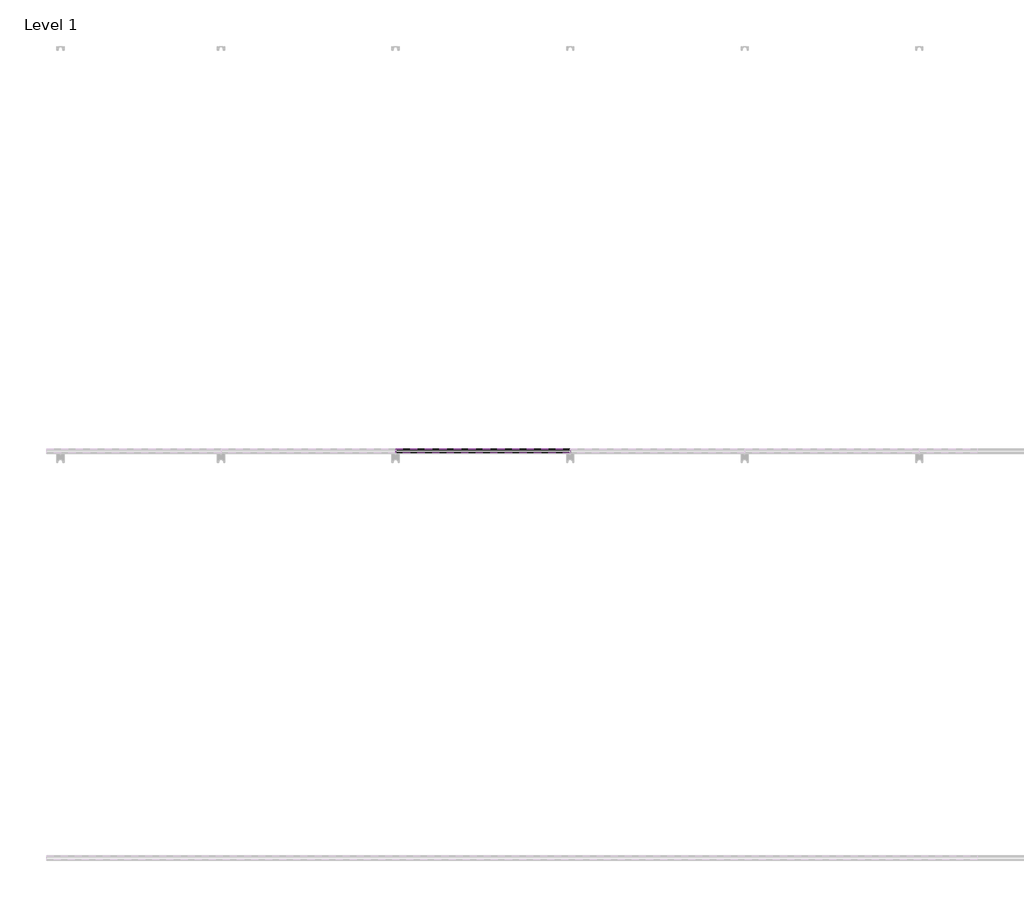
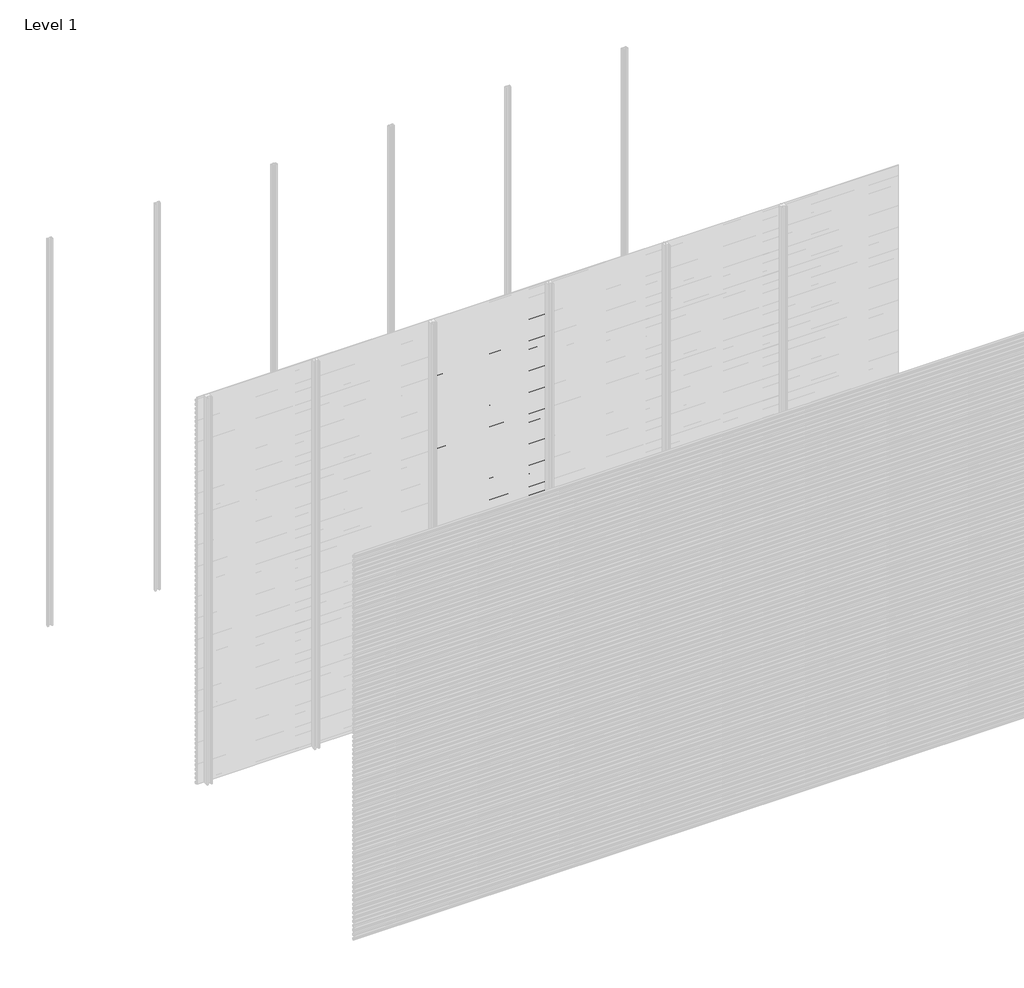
# One storey, part 73 of 96: 77 proxies.
"""IFC4 building model written with IfcOpenShell, lengths in millimetres."""

from ifc_helpers import new_model, si_unit, frame, origin, place, context, project, spatial, polyline, outline, extrude, element, save

model = new_model("IFC4")

# Units and contexts
model_context = context("Model", 3, world=origin())
ifc_project = project(units=[si_unit("LENGTHUNIT", "METRE", prefix="MILLI")], contexts=[model_context])

# Site, building, storey
site = spatial("IfcSite", under=ifc_project)
building = spatial("IfcBuilding", under=site)
storey = spatial("IfcBuildingStorey", under=building, Name="Level 1", Elevation=0.0)

# Proxies
placement = place(None, origin())
element("IfcBuildingElementProxy", 1, Name="Wall Sweeps", at=placement, inside=storey, context=model_context, shape_type="SweptSolid", body=[
    extrude(outline(polyline([(-11977.6, 2738.6655033), (-11977.6, 2724.3779188), (-11982.4114965, 2721.6), (-11982.4114965, 2722.8701706), (-11978.85, 2724.9264016), (-11978.85, 2737.9437382), (-11998.0, 2749.0000799), (-11998.0, 2763.9), (-11996.75, 2763.9), (-11996.75, 2749.7217609), (-11977.6, 2738.6655033)])), frame((1714.2857143, 0.0, 0.0), z_axis=(1.0, 0.0, 0.0), x_axis=(0.0, 1.0, 0.0)), (0.0, 0.0, 1.0), 857.1428571),
])
element("IfcBuildingElementProxy", 2, Name="Wall Sweeps", at=placement, inside=storey, context=model_context, shape_type="SweptSolid", body=[
    extrude(outline(polyline([(-11977.6, 2705.3655033), (-11977.6, 2691.0779188), (-11982.4114965, 2688.3), (-11982.4114965, 2689.5701706), (-11978.85, 2691.6264016), (-11978.85, 2704.6437382), (-11998.0, 2715.7000799), (-11998.0, 2730.6), (-11996.75, 2730.6), (-11996.75, 2716.4217609), (-11977.6, 2705.3655033)])), frame((1714.2857143, 0.0, 0.0), z_axis=(1.0, 0.0, 0.0), x_axis=(0.0, 1.0, 0.0)), (0.0, 0.0, 1.0), 857.1428571),
])
element("IfcBuildingElementProxy", 3, Name="Wall Sweeps", at=placement, inside=storey, context=model_context, shape_type="SweptSolid", body=[
    extrude(outline(polyline([(-11977.6, 2672.0655033), (-11977.6, 2657.7779188), (-11982.4114965, 2655.0), (-11982.4114965, 2656.2701706), (-11978.85, 2658.3264016), (-11978.85, 2671.3437382), (-11998.0, 2682.4000799), (-11998.0, 2697.3), (-11996.75, 2697.3), (-11996.75, 2683.1217609), (-11977.6, 2672.0655033)])), frame((1714.2857143, 0.0, 0.0), z_axis=(1.0, 0.0, 0.0), x_axis=(0.0, 1.0, 0.0)), (0.0, 0.0, 1.0), 857.1428571),
])
element("IfcBuildingElementProxy", 4, Name="Wall Sweeps", at=placement, inside=storey, context=model_context, shape_type="SweptSolid", body=[
    extrude(outline(polyline([(-11977.6, 2638.7655033), (-11977.6, 2624.4779188), (-11982.4114965, 2621.7), (-11982.4114965, 2622.9701706), (-11978.85, 2625.0264016), (-11978.85, 2638.0437382), (-11998.0, 2649.1000799), (-11998.0, 2664.0), (-11996.75, 2664.0), (-11996.75, 2649.8217609), (-11977.6, 2638.7655033)])), frame((1714.2857143, 0.0, 0.0), z_axis=(1.0, 0.0, 0.0), x_axis=(0.0, 1.0, 0.0)), (0.0, 0.0, 1.0), 857.1428571),
])
element("IfcBuildingElementProxy", 5, Name="Wall Sweeps", at=placement, inside=storey, context=model_context, shape_type="SweptSolid", body=[
    extrude(outline(polyline([(-11977.6, 2605.4655033), (-11977.6, 2591.1779188), (-11982.4114965, 2588.4), (-11982.4114965, 2589.6701706), (-11978.85, 2591.7264016), (-11978.85, 2604.7437382), (-11998.0, 2615.8000799), (-11998.0, 2630.7), (-11996.75, 2630.7), (-11996.75, 2616.5217609), (-11977.6, 2605.4655033)])), frame((1714.2857143, 0.0, 0.0), z_axis=(1.0, 0.0, 0.0), x_axis=(0.0, 1.0, 0.0)), (0.0, 0.0, 1.0), 857.1428571),
])
element("IfcBuildingElementProxy", 6, Name="Wall Sweeps", at=placement, inside=storey, context=model_context, shape_type="SweptSolid", body=[
    extrude(outline(polyline([(-11977.6, 2572.1655033), (-11977.6, 2557.8779188), (-11982.4114965, 2555.1), (-11982.4114965, 2556.3701706), (-11978.85, 2558.4264016), (-11978.85, 2571.4437382), (-11998.0, 2582.5000799), (-11998.0, 2597.4), (-11996.75, 2597.4), (-11996.75, 2583.2217609), (-11977.6, 2572.1655033)])), frame((1714.2857143, 0.0, 0.0), z_axis=(1.0, 0.0, 0.0), x_axis=(0.0, 1.0, 0.0)), (0.0, 0.0, 1.0), 857.1428571),
])
element("IfcBuildingElementProxy", 7, Name="Wall Sweeps", at=placement, inside=storey, context=model_context, shape_type="SweptSolid", body=[
    extrude(outline(polyline([(-11977.6, 2538.8655033), (-11977.6, 2524.5779188), (-11982.4114965, 2521.8), (-11982.4114965, 2523.0701706), (-11978.85, 2525.1264016), (-11978.85, 2538.1437382), (-11998.0, 2549.2000799), (-11998.0, 2564.1), (-11996.75, 2564.1), (-11996.75, 2549.9217609), (-11977.6, 2538.8655033)])), frame((1714.2857143, 0.0, 0.0), z_axis=(1.0, 0.0, 0.0), x_axis=(0.0, 1.0, 0.0)), (0.0, 0.0, 1.0), 857.1428571),
])
element("IfcBuildingElementProxy", 8, Name="Wall Sweeps", at=placement, inside=storey, context=model_context, shape_type="SweptSolid", body=[
    extrude(outline(polyline([(-11977.6, 2505.5655033), (-11977.6, 2491.2779188), (-11982.4114965, 2488.5), (-11982.4114965, 2489.7701706), (-11978.85, 2491.8264016), (-11978.85, 2504.8437382), (-11998.0, 2515.9000799), (-11998.0, 2530.8), (-11996.75, 2530.8), (-11996.75, 2516.6217609), (-11977.6, 2505.5655033)])), frame((1714.2857143, 0.0, 0.0), z_axis=(1.0, 0.0, 0.0), x_axis=(0.0, 1.0, 0.0)), (0.0, 0.0, 1.0), 857.1428571),
])
element("IfcBuildingElementProxy", 9, Name="Wall Sweeps", at=placement, inside=storey, context=model_context, shape_type="SweptSolid", body=[
    extrude(outline(polyline([(-11977.6, 2472.2655033), (-11977.6, 2457.9779188), (-11982.4114965, 2455.2), (-11982.4114965, 2456.4701706), (-11978.85, 2458.5264016), (-11978.85, 2471.5437382), (-11998.0, 2482.6000799), (-11998.0, 2497.5), (-11996.75, 2497.5), (-11996.75, 2483.3217609), (-11977.6, 2472.2655033)])), frame((1714.2857143, 0.0, 0.0), z_axis=(1.0, 0.0, 0.0), x_axis=(0.0, 1.0, 0.0)), (0.0, 0.0, 1.0), 857.1428571),
])
element("IfcBuildingElementProxy", 10, Name="Wall Sweeps", at=placement, inside=storey, context=model_context, shape_type="SweptSolid", body=[
    extrude(outline(polyline([(-11977.6, 2438.9655033), (-11977.6, 2424.6779188), (-11982.4114965, 2421.9), (-11982.4114965, 2423.1701706), (-11978.85, 2425.2264016), (-11978.85, 2438.2437382), (-11998.0, 2449.3000799), (-11998.0, 2464.2), (-11996.75, 2464.2), (-11996.75, 2450.0217609), (-11977.6, 2438.9655033)])), frame((1714.2857143, 0.0, 0.0), z_axis=(1.0, 0.0, 0.0), x_axis=(0.0, 1.0, 0.0)), (0.0, 0.0, 1.0), 857.1428571),
])
element("IfcBuildingElementProxy", 11, Name="Wall Sweeps", at=placement, inside=storey, context=model_context, shape_type="SweptSolid", body=[
    extrude(outline(polyline([(-11977.6, 2405.6655033), (-11977.6, 2391.3779188), (-11982.4114965, 2388.6), (-11982.4114965, 2389.8701706), (-11978.85, 2391.9264016), (-11978.85, 2404.9437382), (-11998.0, 2416.0000799), (-11998.0, 2430.9), (-11996.75, 2430.9), (-11996.75, 2416.7217609), (-11977.6, 2405.6655033)])), frame((1714.2857143, 0.0, 0.0), z_axis=(1.0, 0.0, 0.0), x_axis=(0.0, 1.0, 0.0)), (0.0, 0.0, 1.0), 857.1428571),
])
element("IfcBuildingElementProxy", 12, Name="Wall Sweeps", at=placement, inside=storey, context=model_context, shape_type="SweptSolid", body=[
    extrude(outline(polyline([(-11977.6, 2372.3655033), (-11977.6, 2358.0779188), (-11982.4114965, 2355.3), (-11982.4114965, 2356.5701706), (-11978.85, 2358.6264016), (-11978.85, 2371.6437382), (-11998.0, 2382.7000799), (-11998.0, 2397.6), (-11996.75, 2397.6), (-11996.75, 2383.4217609), (-11977.6, 2372.3655033)])), frame((1714.2857143, 0.0, 0.0), z_axis=(1.0, 0.0, 0.0), x_axis=(0.0, 1.0, 0.0)), (0.0, 0.0, 1.0), 857.1428571),
])
element("IfcBuildingElementProxy", 13, Name="Wall Sweeps", at=placement, inside=storey, context=model_context, shape_type="SweptSolid", body=[
    extrude(outline(polyline([(-11977.6, 2339.0655033), (-11977.6, 2324.7779188), (-11982.4114965, 2322.0), (-11982.4114965, 2323.2701706), (-11978.85, 2325.3264016), (-11978.85, 2338.3437382), (-11998.0, 2349.4000799), (-11998.0, 2364.3), (-11996.75, 2364.3), (-11996.75, 2350.1217609), (-11977.6, 2339.0655033)])), frame((1714.2857143, 0.0, 0.0), z_axis=(1.0, 0.0, 0.0), x_axis=(0.0, 1.0, 0.0)), (0.0, 0.0, 1.0), 857.1428571),
])
element("IfcBuildingElementProxy", 14, Name="Wall Sweeps", at=placement, inside=storey, context=model_context, shape_type="SweptSolid", body=[
    extrude(outline(polyline([(-11977.6, 2305.7655033), (-11977.6, 2291.4779188), (-11982.4114965, 2288.7), (-11982.4114965, 2289.9701706), (-11978.85, 2292.0264016), (-11978.85, 2305.0437382), (-11998.0, 2316.1000799), (-11998.0, 2331.0), (-11996.75, 2331.0), (-11996.75, 2316.8217609), (-11977.6, 2305.7655033)])), frame((1714.2857143, 0.0, 0.0), z_axis=(1.0, 0.0, 0.0), x_axis=(0.0, 1.0, 0.0)), (0.0, 0.0, 1.0), 857.1428571),
])
element("IfcBuildingElementProxy", 15, Name="Wall Sweeps", at=placement, inside=storey, context=model_context, shape_type="SweptSolid", body=[
    extrude(outline(polyline([(-11977.6, 2272.4655033), (-11977.6, 2258.1779188), (-11982.4114965, 2255.4), (-11982.4114965, 2256.6701706), (-11978.85, 2258.7264016), (-11978.85, 2271.7437382), (-11998.0, 2282.8000799), (-11998.0, 2297.7), (-11996.75, 2297.7), (-11996.75, 2283.5217609), (-11977.6, 2272.4655033)])), frame((1714.2857143, 0.0, 0.0), z_axis=(1.0, 0.0, 0.0), x_axis=(0.0, 1.0, 0.0)), (0.0, 0.0, 1.0), 857.1428571),
])
element("IfcBuildingElementProxy", 16, Name="Wall Sweeps", at=placement, inside=storey, context=model_context, shape_type="SweptSolid", body=[
    extrude(outline(polyline([(-11977.6, 2239.1655033), (-11977.6, 2224.8779188), (-11982.4114965, 2222.1), (-11982.4114965, 2223.3701706), (-11978.85, 2225.4264016), (-11978.85, 2238.4437382), (-11998.0, 2249.5000799), (-11998.0, 2264.4), (-11996.75, 2264.4), (-11996.75, 2250.2217609), (-11977.6, 2239.1655033)])), frame((1714.2857143, 0.0, 0.0), z_axis=(1.0, 0.0, 0.0), x_axis=(0.0, 1.0, 0.0)), (0.0, 0.0, 1.0), 857.1428571),
])
element("IfcBuildingElementProxy", 17, Name="Wall Sweeps", at=placement, inside=storey, context=model_context, shape_type="SweptSolid", body=[
    extrude(outline(polyline([(-11977.6, 2205.8655033), (-11977.6, 2191.5779188), (-11982.4114965, 2188.8), (-11982.4114965, 2190.0701706), (-11978.85, 2192.1264016), (-11978.85, 2205.1437382), (-11998.0, 2216.2000799), (-11998.0, 2231.1), (-11996.75, 2231.1), (-11996.75, 2216.9217609), (-11977.6, 2205.8655033)])), frame((1714.2857143, 0.0, 0.0), z_axis=(1.0, 0.0, 0.0), x_axis=(0.0, 1.0, 0.0)), (0.0, 0.0, 1.0), 857.1428571),
])
element("IfcBuildingElementProxy", 18, Name="Wall Sweeps", at=placement, inside=storey, context=model_context, shape_type="SweptSolid", body=[
    extrude(outline(polyline([(-11977.6, 2172.5655033), (-11977.6, 2158.2779188), (-11982.4114965, 2155.5), (-11982.4114965, 2156.7701706), (-11978.85, 2158.8264016), (-11978.85, 2171.8437382), (-11998.0, 2182.9000799), (-11998.0, 2197.8), (-11996.75, 2197.8), (-11996.75, 2183.6217609), (-11977.6, 2172.5655033)])), frame((1714.2857143, 0.0, 0.0), z_axis=(1.0, 0.0, 0.0), x_axis=(0.0, 1.0, 0.0)), (0.0, 0.0, 1.0), 857.1428571),
])
element("IfcBuildingElementProxy", 19, Name="Wall Sweeps", at=placement, inside=storey, context=model_context, shape_type="SweptSolid", body=[
    extrude(outline(polyline([(-11977.6, 2139.2655033), (-11977.6, 2124.9779188), (-11982.4114965, 2122.2), (-11982.4114965, 2123.4701706), (-11978.85, 2125.5264016), (-11978.85, 2138.5437382), (-11998.0, 2149.6000799), (-11998.0, 2164.5), (-11996.75, 2164.5), (-11996.75, 2150.3217609), (-11977.6, 2139.2655033)])), frame((1714.2857143, 0.0, 0.0), z_axis=(1.0, 0.0, 0.0), x_axis=(0.0, 1.0, 0.0)), (0.0, 0.0, 1.0), 857.1428571),
])
element("IfcBuildingElementProxy", 20, Name="Wall Sweeps", at=placement, inside=storey, context=model_context, shape_type="SweptSolid", body=[
    extrude(outline(polyline([(-11977.6, 2105.9655033), (-11977.6, 2091.6779188), (-11982.4114965, 2088.9), (-11982.4114965, 2090.1701706), (-11978.85, 2092.2264016), (-11978.85, 2105.2437382), (-11998.0, 2116.3000799), (-11998.0, 2131.2), (-11996.75, 2131.2), (-11996.75, 2117.0217609), (-11977.6, 2105.9655033)])), frame((1714.2857143, 0.0, 0.0), z_axis=(1.0, 0.0, 0.0), x_axis=(0.0, 1.0, 0.0)), (0.0, 0.0, 1.0), 857.1428571),
])
element("IfcBuildingElementProxy", 21, Name="Wall Sweeps", at=placement, inside=storey, context=model_context, shape_type="SweptSolid", body=[
    extrude(outline(polyline([(-11977.6, 2072.6655033), (-11977.6, 2058.3779188), (-11982.4114965, 2055.6), (-11982.4114965, 2056.8701706), (-11978.85, 2058.9264016), (-11978.85, 2071.9437382), (-11998.0, 2083.0000799), (-11998.0, 2097.9), (-11996.75, 2097.9), (-11996.75, 2083.7217609), (-11977.6, 2072.6655033)])), frame((1714.2857143, 0.0, 0.0), z_axis=(1.0, 0.0, 0.0), x_axis=(0.0, 1.0, 0.0)), (0.0, 0.0, 1.0), 857.1428571),
])
element("IfcBuildingElementProxy", 22, Name="Wall Sweeps", at=placement, inside=storey, context=model_context, shape_type="SweptSolid", body=[
    extrude(outline(polyline([(-11977.6, 2039.3655033), (-11977.6, 2025.0779188), (-11982.4114965, 2022.3), (-11982.4114965, 2023.5701706), (-11978.85, 2025.6264016), (-11978.85, 2038.6437382), (-11998.0, 2049.7000799), (-11998.0, 2064.6), (-11996.75, 2064.6), (-11996.75, 2050.4217609), (-11977.6, 2039.3655033)])), frame((1714.2857143, 0.0, 0.0), z_axis=(1.0, 0.0, 0.0), x_axis=(0.0, 1.0, 0.0)), (0.0, 0.0, 1.0), 857.1428571),
])
element("IfcBuildingElementProxy", 23, Name="Wall Sweeps", at=placement, inside=storey, context=model_context, shape_type="SweptSolid", body=[
    extrude(outline(polyline([(-11977.6, 2006.0655033), (-11977.6, 1991.7779188), (-11982.4114965, 1989.0), (-11982.4114965, 1990.2701706), (-11978.85, 1992.3264016), (-11978.85, 2005.3437382), (-11998.0, 2016.4000799), (-11998.0, 2031.3), (-11996.75, 2031.3), (-11996.75, 2017.1217609), (-11977.6, 2006.0655033)])), frame((1714.2857143, 0.0, 0.0), z_axis=(1.0, 0.0, 0.0), x_axis=(0.0, 1.0, 0.0)), (0.0, 0.0, 1.0), 857.1428571),
])
element("IfcBuildingElementProxy", 24, Name="Wall Sweeps", at=placement, inside=storey, context=model_context, shape_type="SweptSolid", body=[
    extrude(outline(polyline([(-11977.6, 1972.7655033), (-11977.6, 1958.4779188), (-11982.4114965, 1955.7), (-11982.4114965, 1956.9701706), (-11978.85, 1959.0264016), (-11978.85, 1972.0437382), (-11998.0, 1983.1000799), (-11998.0, 1998.0), (-11996.75, 1998.0), (-11996.75, 1983.8217609), (-11977.6, 1972.7655033)])), frame((1714.2857143, 0.0, 0.0), z_axis=(1.0, 0.0, 0.0), x_axis=(0.0, 1.0, 0.0)), (0.0, 0.0, 1.0), 857.1428571),
])
element("IfcBuildingElementProxy", 25, Name="Wall Sweeps", at=placement, inside=storey, context=model_context, shape_type="SweptSolid", body=[
    extrude(outline(polyline([(-11977.6, 1939.4655033), (-11977.6, 1925.1779188), (-11982.4114965, 1922.4), (-11982.4114965, 1923.6701706), (-11978.85, 1925.7264016), (-11978.85, 1938.7437382), (-11998.0, 1949.8000799), (-11998.0, 1964.7), (-11996.75, 1964.7), (-11996.75, 1950.5217609), (-11977.6, 1939.4655033)])), frame((1714.2857143, 0.0, 0.0), z_axis=(1.0, 0.0, 0.0), x_axis=(0.0, 1.0, 0.0)), (0.0, 0.0, 1.0), 857.1428571),
])
element("IfcBuildingElementProxy", 26, Name="Wall Sweeps", at=placement, inside=storey, context=model_context, shape_type="SweptSolid", body=[
    extrude(outline(polyline([(-11977.6, 1906.1655033), (-11977.6, 1891.8779188), (-11982.4114965, 1889.1), (-11982.4114965, 1890.3701706), (-11978.85, 1892.4264016), (-11978.85, 1905.4437382), (-11998.0, 1916.5000799), (-11998.0, 1931.4), (-11996.75, 1931.4), (-11996.75, 1917.2217609), (-11977.6, 1906.1655033)])), frame((1714.2857143, 0.0, 0.0), z_axis=(1.0, 0.0, 0.0), x_axis=(0.0, 1.0, 0.0)), (0.0, 0.0, 1.0), 857.1428571),
])
element("IfcBuildingElementProxy", 27, Name="Wall Sweeps", at=placement, inside=storey, context=model_context, shape_type="SweptSolid", body=[
    extrude(outline(polyline([(-11977.6, 1872.8655033), (-11977.6, 1858.5779188), (-11982.4114965, 1855.8), (-11982.4114965, 1857.0701706), (-11978.85, 1859.1264016), (-11978.85, 1872.1437382), (-11998.0, 1883.2000799), (-11998.0, 1898.1), (-11996.75, 1898.1), (-11996.75, 1883.9217609), (-11977.6, 1872.8655033)])), frame((1714.2857143, 0.0, 0.0), z_axis=(1.0, 0.0, 0.0), x_axis=(0.0, 1.0, 0.0)), (0.0, 0.0, 1.0), 857.1428571),
])
element("IfcBuildingElementProxy", 28, Name="Wall Sweeps", at=placement, inside=storey, context=model_context, shape_type="SweptSolid", body=[
    extrude(outline(polyline([(-11977.6, 1839.5655033), (-11977.6, 1825.2779188), (-11982.4114965, 1822.5), (-11982.4114965, 1823.7701706), (-11978.85, 1825.8264016), (-11978.85, 1838.8437382), (-11998.0, 1849.9000799), (-11998.0, 1864.8), (-11996.75, 1864.8), (-11996.75, 1850.6217609), (-11977.6, 1839.5655033)])), frame((1714.2857143, 0.0, 0.0), z_axis=(1.0, 0.0, 0.0), x_axis=(0.0, 1.0, 0.0)), (0.0, 0.0, 1.0), 857.1428571),
])
element("IfcBuildingElementProxy", 29, Name="Wall Sweeps", at=placement, inside=storey, context=model_context, shape_type="SweptSolid", body=[
    extrude(outline(polyline([(-11977.6, 1806.2655033), (-11977.6, 1791.9779188), (-11982.4114965, 1789.2), (-11982.4114965, 1790.4701706), (-11978.85, 1792.5264016), (-11978.85, 1805.5437382), (-11998.0, 1816.6000799), (-11998.0, 1831.5), (-11996.75, 1831.5), (-11996.75, 1817.3217609), (-11977.6, 1806.2655033)])), frame((1714.2857143, 0.0, 0.0), z_axis=(1.0, 0.0, 0.0), x_axis=(0.0, 1.0, 0.0)), (0.0, 0.0, 1.0), 857.1428571),
])
element("IfcBuildingElementProxy", 30, Name="Wall Sweeps", at=placement, inside=storey, context=model_context, shape_type="SweptSolid", body=[
    extrude(outline(polyline([(-11977.6, 1772.9655033), (-11977.6, 1758.6779188), (-11982.4114965, 1755.9), (-11982.4114965, 1757.1701706), (-11978.85, 1759.2264016), (-11978.85, 1772.2437382), (-11998.0, 1783.3000799), (-11998.0, 1798.2), (-11996.75, 1798.2), (-11996.75, 1784.0217609), (-11977.6, 1772.9655033)])), frame((1714.2857143, 0.0, 0.0), z_axis=(1.0, 0.0, 0.0), x_axis=(0.0, 1.0, 0.0)), (0.0, 0.0, 1.0), 857.1428571),
])
element("IfcBuildingElementProxy", 31, Name="Wall Sweeps", at=placement, inside=storey, context=model_context, shape_type="SweptSolid", body=[
    extrude(outline(polyline([(-11977.6, 1739.6655033), (-11977.6, 1725.3779188), (-11982.4114965, 1722.6), (-11982.4114965, 1723.8701706), (-11978.85, 1725.9264016), (-11978.85, 1738.9437382), (-11998.0, 1750.0000799), (-11998.0, 1764.9), (-11996.75, 1764.9), (-11996.75, 1750.7217609), (-11977.6, 1739.6655033)])), frame((1714.2857143, 0.0, 0.0), z_axis=(1.0, 0.0, 0.0), x_axis=(0.0, 1.0, 0.0)), (0.0, 0.0, 1.0), 857.1428571),
])
element("IfcBuildingElementProxy", 32, Name="Wall Sweeps", at=placement, inside=storey, context=model_context, shape_type="SweptSolid", body=[
    extrude(outline(polyline([(-11977.6, 1706.3655033), (-11977.6, 1692.0779188), (-11982.4114965, 1689.3), (-11982.4114965, 1690.5701706), (-11978.85, 1692.6264016), (-11978.85, 1705.6437382), (-11998.0, 1716.7000799), (-11998.0, 1731.6), (-11996.75, 1731.6), (-11996.75, 1717.4217609), (-11977.6, 1706.3655033)])), frame((1714.2857143, 0.0, 0.0), z_axis=(1.0, 0.0, 0.0), x_axis=(0.0, 1.0, 0.0)), (0.0, 0.0, 1.0), 857.1428571),
])
element("IfcBuildingElementProxy", 33, Name="Wall Sweeps", at=placement, inside=storey, context=model_context, shape_type="SweptSolid", body=[
    extrude(outline(polyline([(-11977.6, 1673.0655033), (-11977.6, 1658.7779188), (-11982.4114965, 1656.0), (-11982.4114965, 1657.2701706), (-11978.85, 1659.3264016), (-11978.85, 1672.3437382), (-11998.0, 1683.4000799), (-11998.0, 1698.3), (-11996.75, 1698.3), (-11996.75, 1684.1217609), (-11977.6, 1673.0655033)])), frame((1714.2857143, 0.0, 0.0), z_axis=(1.0, 0.0, 0.0), x_axis=(0.0, 1.0, 0.0)), (0.0, 0.0, 1.0), 857.1428571),
])
element("IfcBuildingElementProxy", 34, Name="Wall Sweeps", at=placement, inside=storey, context=model_context, shape_type="SweptSolid", body=[
    extrude(outline(polyline([(-11977.6, 1639.7655033), (-11977.6, 1625.4779188), (-11982.4114965, 1622.7), (-11982.4114965, 1623.9701706), (-11978.85, 1626.0264016), (-11978.85, 1639.0437382), (-11998.0, 1650.1000799), (-11998.0, 1665.0), (-11996.75, 1665.0), (-11996.75, 1650.8217609), (-11977.6, 1639.7655033)])), frame((1714.2857143, 0.0, 0.0), z_axis=(1.0, 0.0, 0.0), x_axis=(0.0, 1.0, 0.0)), (0.0, 0.0, 1.0), 857.1428571),
])
element("IfcBuildingElementProxy", 35, Name="Wall Sweeps", at=placement, inside=storey, context=model_context, shape_type="SweptSolid", body=[
    extrude(outline(polyline([(-11977.6, 1606.4655033), (-11977.6, 1592.1779188), (-11982.4114965, 1589.4), (-11982.4114965, 1590.6701706), (-11978.85, 1592.7264016), (-11978.85, 1605.7437382), (-11998.0, 1616.8000799), (-11998.0, 1631.7), (-11996.75, 1631.7), (-11996.75, 1617.5217609), (-11977.6, 1606.4655033)])), frame((1714.2857143, 0.0, 0.0), z_axis=(1.0, 0.0, 0.0), x_axis=(0.0, 1.0, 0.0)), (0.0, 0.0, 1.0), 857.1428571),
])
element("IfcBuildingElementProxy", 36, Name="Wall Sweeps", at=placement, inside=storey, context=model_context, shape_type="SweptSolid", body=[
    extrude(outline(polyline([(-11977.6, 1573.1655033), (-11977.6, 1558.8779188), (-11982.4114965, 1556.1), (-11982.4114965, 1557.3701706), (-11978.85, 1559.4264016), (-11978.85, 1572.4437382), (-11998.0, 1583.5000799), (-11998.0, 1598.4), (-11996.75, 1598.4), (-11996.75, 1584.2217609), (-11977.6, 1573.1655033)])), frame((1714.2857143, 0.0, 0.0), z_axis=(1.0, 0.0, 0.0), x_axis=(0.0, 1.0, 0.0)), (0.0, 0.0, 1.0), 857.1428571),
])
element("IfcBuildingElementProxy", 37, Name="Wall Sweeps", at=placement, inside=storey, context=model_context, shape_type="SweptSolid", body=[
    extrude(outline(polyline([(-11977.6, 1539.8655033), (-11977.6, 1525.5779188), (-11982.4114965, 1522.8), (-11982.4114965, 1524.0701706), (-11978.85, 1526.1264016), (-11978.85, 1539.1437382), (-11998.0, 1550.2000799), (-11998.0, 1565.1), (-11996.75, 1565.1), (-11996.75, 1550.9217609), (-11977.6, 1539.8655033)])), frame((1714.2857143, 0.0, 0.0), z_axis=(1.0, 0.0, 0.0), x_axis=(0.0, 1.0, 0.0)), (0.0, 0.0, 1.0), 857.1428571),
])
element("IfcBuildingElementProxy", 38, Name="Wall Sweeps", at=placement, inside=storey, context=model_context, shape_type="SweptSolid", body=[
    extrude(outline(polyline([(-11977.6, 1506.5655033), (-11977.6, 1492.2779188), (-11982.4114965, 1489.5), (-11982.4114965, 1490.7701706), (-11978.85, 1492.8264016), (-11978.85, 1505.8437382), (-11998.0, 1516.9000799), (-11998.0, 1531.8), (-11996.75, 1531.8), (-11996.75, 1517.6217609), (-11977.6, 1506.5655033)])), frame((1714.2857143, 0.0, 0.0), z_axis=(1.0, 0.0, 0.0), x_axis=(0.0, 1.0, 0.0)), (0.0, 0.0, 1.0), 857.1428571),
])
element("IfcBuildingElementProxy", 39, Name="Wall Sweeps", at=placement, inside=storey, context=model_context, shape_type="SweptSolid", body=[
    extrude(outline(polyline([(-11977.6, 1473.2655033), (-11977.6, 1458.9779188), (-11982.4114965, 1456.2), (-11982.4114965, 1457.4701706), (-11978.85, 1459.5264016), (-11978.85, 1472.5437382), (-11998.0, 1483.6000799), (-11998.0, 1498.5), (-11996.75, 1498.5), (-11996.75, 1484.3217609), (-11977.6, 1473.2655033)])), frame((1714.2857143, 0.0, 0.0), z_axis=(1.0, 0.0, 0.0), x_axis=(0.0, 1.0, 0.0)), (0.0, 0.0, 1.0), 857.1428571),
])
element("IfcBuildingElementProxy", 40, Name="Wall Sweeps", at=placement, inside=storey, context=model_context, shape_type="SweptSolid", body=[
    extrude(outline(polyline([(-11977.6, 1439.9655033), (-11977.6, 1425.6779188), (-11982.4114965, 1422.9), (-11982.4114965, 1424.1701706), (-11978.85, 1426.2264016), (-11978.85, 1439.2437382), (-11998.0, 1450.3000799), (-11998.0, 1465.2), (-11996.75, 1465.2), (-11996.75, 1451.0217609), (-11977.6, 1439.9655033)])), frame((1714.2857143, 0.0, 0.0), z_axis=(1.0, 0.0, 0.0), x_axis=(0.0, 1.0, 0.0)), (0.0, 0.0, 1.0), 857.1428571),
])
element("IfcBuildingElementProxy", 41, Name="Wall Sweeps", at=placement, inside=storey, context=model_context, shape_type="SweptSolid", body=[
    extrude(outline(polyline([(-11977.6, 1406.6655033), (-11977.6, 1392.3779188), (-11982.4114965, 1389.6), (-11982.4114965, 1390.8701706), (-11978.85, 1392.9264016), (-11978.85, 1405.9437382), (-11998.0, 1417.0000799), (-11998.0, 1431.9), (-11996.75, 1431.9), (-11996.75, 1417.7217609), (-11977.6, 1406.6655033)])), frame((1714.2857143, 0.0, 0.0), z_axis=(1.0, 0.0, 0.0), x_axis=(0.0, 1.0, 0.0)), (0.0, 0.0, 1.0), 857.1428571),
])
element("IfcBuildingElementProxy", 42, Name="Wall Sweeps", at=placement, inside=storey, context=model_context, shape_type="SweptSolid", body=[
    extrude(outline(polyline([(-11977.6, 1373.3655033), (-11977.6, 1359.0779188), (-11982.4114965, 1356.3), (-11982.4114965, 1357.5701706), (-11978.85, 1359.6264016), (-11978.85, 1372.6437382), (-11998.0, 1383.7000799), (-11998.0, 1398.6), (-11996.75, 1398.6), (-11996.75, 1384.4217609), (-11977.6, 1373.3655033)])), frame((1714.2857143, 0.0, 0.0), z_axis=(1.0, 0.0, 0.0), x_axis=(0.0, 1.0, 0.0)), (0.0, 0.0, 1.0), 857.1428571),
])
element("IfcBuildingElementProxy", 43, Name="Wall Sweeps", at=placement, inside=storey, context=model_context, shape_type="SweptSolid", body=[
    extrude(outline(polyline([(-11977.6, 1340.0655033), (-11977.6, 1325.7779188), (-11982.4114965, 1323.0), (-11982.4114965, 1324.2701706), (-11978.85, 1326.3264016), (-11978.85, 1339.3437382), (-11998.0, 1350.4000799), (-11998.0, 1365.3), (-11996.75, 1365.3), (-11996.75, 1351.1217609), (-11977.6, 1340.0655033)])), frame((1714.2857143, 0.0, 0.0), z_axis=(1.0, 0.0, 0.0), x_axis=(0.0, 1.0, 0.0)), (0.0, 0.0, 1.0), 857.1428571),
])
element("IfcBuildingElementProxy", 44, Name="Wall Sweeps", at=placement, inside=storey, context=model_context, shape_type="SweptSolid", body=[
    extrude(outline(polyline([(-11977.6, 1306.7655033), (-11977.6, 1292.4779188), (-11982.4114965, 1289.7), (-11982.4114965, 1290.9701706), (-11978.85, 1293.0264016), (-11978.85, 1306.0437382), (-11998.0, 1317.1000799), (-11998.0, 1332.0), (-11996.75, 1332.0), (-11996.75, 1317.8217609), (-11977.6, 1306.7655033)])), frame((1714.2857143, 0.0, 0.0), z_axis=(1.0, 0.0, 0.0), x_axis=(0.0, 1.0, 0.0)), (0.0, 0.0, 1.0), 857.1428571),
])
element("IfcBuildingElementProxy", 45, Name="Wall Sweeps", at=placement, inside=storey, context=model_context, shape_type="SweptSolid", body=[
    extrude(outline(polyline([(-11977.6, 1273.4655033), (-11977.6, 1259.1779188), (-11982.4114965, 1256.4), (-11982.4114965, 1257.6701706), (-11978.85, 1259.7264016), (-11978.85, 1272.7437382), (-11998.0, 1283.8000799), (-11998.0, 1298.7), (-11996.75, 1298.7), (-11996.75, 1284.5217609), (-11977.6, 1273.4655033)])), frame((1714.2857143, 0.0, 0.0), z_axis=(1.0, 0.0, 0.0), x_axis=(0.0, 1.0, 0.0)), (0.0, 0.0, 1.0), 857.1428571),
])
element("IfcBuildingElementProxy", 46, Name="Wall Sweeps", at=placement, inside=storey, context=model_context, shape_type="SweptSolid", body=[
    extrude(outline(polyline([(-11977.6, 1240.1655033), (-11977.6, 1225.8779188), (-11982.4114965, 1223.1), (-11982.4114965, 1224.3701706), (-11978.85, 1226.4264016), (-11978.85, 1239.4437382), (-11998.0, 1250.5000799), (-11998.0, 1265.4), (-11996.75, 1265.4), (-11996.75, 1251.2217609), (-11977.6, 1240.1655033)])), frame((1714.2857143, 0.0, 0.0), z_axis=(1.0, 0.0, 0.0), x_axis=(0.0, 1.0, 0.0)), (0.0, 0.0, 1.0), 857.1428571),
])
element("IfcBuildingElementProxy", 47, Name="Wall Sweeps", at=placement, inside=storey, context=model_context, shape_type="SweptSolid", body=[
    extrude(outline(polyline([(-11977.6, 1206.8655033), (-11977.6, 1192.5779188), (-11982.4114965, 1189.8), (-11982.4114965, 1191.0701706), (-11978.85, 1193.1264016), (-11978.85, 1206.1437382), (-11998.0, 1217.2000799), (-11998.0, 1232.1), (-11996.75, 1232.1), (-11996.75, 1217.9217609), (-11977.6, 1206.8655033)])), frame((1714.2857143, 0.0, 0.0), z_axis=(1.0, 0.0, 0.0), x_axis=(0.0, 1.0, 0.0)), (0.0, 0.0, 1.0), 857.1428571),
])
element("IfcBuildingElementProxy", 48, Name="Wall Sweeps", at=placement, inside=storey, context=model_context, shape_type="SweptSolid", body=[
    extrude(outline(polyline([(-11977.6, 1173.5655033), (-11977.6, 1159.2779188), (-11982.4114965, 1156.5), (-11982.4114965, 1157.7701706), (-11978.85, 1159.8264016), (-11978.85, 1172.8437382), (-11998.0, 1183.9000799), (-11998.0, 1198.8), (-11996.75, 1198.8), (-11996.75, 1184.6217609), (-11977.6, 1173.5655033)])), frame((1714.2857143, 0.0, 0.0), z_axis=(1.0, 0.0, 0.0), x_axis=(0.0, 1.0, 0.0)), (0.0, 0.0, 1.0), 857.1428571),
])
element("IfcBuildingElementProxy", 49, Name="Wall Sweeps", at=placement, inside=storey, context=model_context, shape_type="SweptSolid", body=[
    extrude(outline(polyline([(-11977.6, 1140.2655033), (-11977.6, 1125.9779188), (-11982.4114965, 1123.2), (-11982.4114965, 1124.4701706), (-11978.85, 1126.5264016), (-11978.85, 1139.5437382), (-11998.0, 1150.6000799), (-11998.0, 1165.5), (-11996.75, 1165.5), (-11996.75, 1151.3217609), (-11977.6, 1140.2655033)])), frame((1714.2857143, 0.0, 0.0), z_axis=(1.0, 0.0, 0.0), x_axis=(0.0, 1.0, 0.0)), (0.0, 0.0, 1.0), 857.1428571),
])
element("IfcBuildingElementProxy", 50, Name="Wall Sweeps", at=placement, inside=storey, context=model_context, shape_type="SweptSolid", body=[
    extrude(outline(polyline([(-11977.6, 1106.9655033), (-11977.6, 1092.6779188), (-11982.4114965, 1089.9), (-11982.4114965, 1091.1701706), (-11978.85, 1093.2264016), (-11978.85, 1106.2437382), (-11998.0, 1117.3000799), (-11998.0, 1132.2), (-11996.75, 1132.2), (-11996.75, 1118.0217609), (-11977.6, 1106.9655033)])), frame((1714.2857143, 0.0, 0.0), z_axis=(1.0, 0.0, 0.0), x_axis=(0.0, 1.0, 0.0)), (0.0, 0.0, 1.0), 857.1428571),
])
element("IfcBuildingElementProxy", 51, Name="Wall Sweeps", at=placement, inside=storey, context=model_context, shape_type="SweptSolid", body=[
    extrude(outline(polyline([(-11977.6, 1073.6655033), (-11977.6, 1059.3779188), (-11982.4114965, 1056.6), (-11982.4114965, 1057.8701706), (-11978.85, 1059.9264016), (-11978.85, 1072.9437382), (-11998.0, 1084.0000799), (-11998.0, 1098.9), (-11996.75, 1098.9), (-11996.75, 1084.7217609), (-11977.6, 1073.6655033)])), frame((1714.2857143, 0.0, 0.0), z_axis=(1.0, 0.0, 0.0), x_axis=(0.0, 1.0, 0.0)), (0.0, 0.0, 1.0), 857.1428571),
])
element("IfcBuildingElementProxy", 52, Name="Wall Sweeps", at=placement, inside=storey, context=model_context, shape_type="SweptSolid", body=[
    extrude(outline(polyline([(-11977.6, 1040.3655033), (-11977.6, 1026.0779188), (-11982.4114965, 1023.3), (-11982.4114965, 1024.5701706), (-11978.85, 1026.6264016), (-11978.85, 1039.6437382), (-11998.0, 1050.7000799), (-11998.0, 1065.6), (-11996.75, 1065.6), (-11996.75, 1051.4217609), (-11977.6, 1040.3655033)])), frame((1714.2857143, 0.0, 0.0), z_axis=(1.0, 0.0, 0.0), x_axis=(0.0, 1.0, 0.0)), (0.0, 0.0, 1.0), 857.1428571),
])
element("IfcBuildingElementProxy", 53, Name="Wall Sweeps", at=placement, inside=storey, context=model_context, shape_type="SweptSolid", body=[
    extrude(outline(polyline([(-11977.6, 1007.0655033), (-11977.6, 992.7779188), (-11982.4114965, 990.0), (-11982.4114965, 991.2701706), (-11978.85, 993.3264016), (-11978.85, 1006.3437382), (-11998.0, 1017.4000799), (-11998.0, 1032.3), (-11996.75, 1032.3), (-11996.75, 1018.1217609), (-11977.6, 1007.0655033)])), frame((1714.2857143, 0.0, 0.0), z_axis=(1.0, 0.0, 0.0), x_axis=(0.0, 1.0, 0.0)), (0.0, 0.0, 1.0), 857.1428571),
])
element("IfcBuildingElementProxy", 54, Name="Wall Sweeps", at=placement, inside=storey, context=model_context, shape_type="SweptSolid", body=[
    extrude(outline(polyline([(-11977.6, 973.7655033), (-11977.6, 959.4779188), (-11982.4114965, 956.7), (-11982.4114965, 957.9701706), (-11978.85, 960.0264016), (-11978.85, 973.0437382), (-11998.0, 984.1000799), (-11998.0, 999.0), (-11996.75, 999.0), (-11996.75, 984.8217609), (-11977.6, 973.7655033)])), frame((1714.2857143, 0.0, 0.0), z_axis=(1.0, 0.0, 0.0), x_axis=(0.0, 1.0, 0.0)), (0.0, 0.0, 1.0), 857.1428571),
])
element("IfcBuildingElementProxy", 55, Name="Wall Sweeps", at=placement, inside=storey, context=model_context, shape_type="SweptSolid", body=[
    extrude(outline(polyline([(-11977.6, 940.4655033), (-11977.6, 926.1779188), (-11982.4114965, 923.4), (-11982.4114965, 924.6701706), (-11978.85, 926.7264016), (-11978.85, 939.7437382), (-11998.0, 950.8000799), (-11998.0, 965.7), (-11996.75, 965.7), (-11996.75, 951.5217609), (-11977.6, 940.4655033)])), frame((1714.2857143, 0.0, 0.0), z_axis=(1.0, 0.0, 0.0), x_axis=(0.0, 1.0, 0.0)), (0.0, 0.0, 1.0), 857.1428571),
])
element("IfcBuildingElementProxy", 56, Name="Wall Sweeps", at=placement, inside=storey, context=model_context, shape_type="SweptSolid", body=[
    extrude(outline(polyline([(-11977.6, 907.1655033), (-11977.6, 892.8779188), (-11982.4114965, 890.1), (-11982.4114965, 891.3701706), (-11978.85, 893.4264016), (-11978.85, 906.4437382), (-11998.0, 917.5000799), (-11998.0, 932.4), (-11996.75, 932.4), (-11996.75, 918.2217609), (-11977.6, 907.1655033)])), frame((1714.2857143, 0.0, 0.0), z_axis=(1.0, 0.0, 0.0), x_axis=(0.0, 1.0, 0.0)), (0.0, 0.0, 1.0), 857.1428571),
])
element("IfcBuildingElementProxy", 57, Name="Wall Sweeps", at=placement, inside=storey, context=model_context, shape_type="SweptSolid", body=[
    extrude(outline(polyline([(-11977.6, 873.8655033), (-11977.6, 859.5779188), (-11982.4114965, 856.8), (-11982.4114965, 858.0701706), (-11978.85, 860.1264016), (-11978.85, 873.1437382), (-11998.0, 884.2000799), (-11998.0, 899.1), (-11996.75, 899.1), (-11996.75, 884.9217609), (-11977.6, 873.8655033)])), frame((1714.2857143, 0.0, 0.0), z_axis=(1.0, 0.0, 0.0), x_axis=(0.0, 1.0, 0.0)), (0.0, 0.0, 1.0), 857.1428571),
])
element("IfcBuildingElementProxy", 58, Name="Wall Sweeps", at=placement, inside=storey, context=model_context, shape_type="SweptSolid", body=[
    extrude(outline(polyline([(-11977.6, 840.5655033), (-11977.6, 826.2779188), (-11982.4114965, 823.5), (-11982.4114965, 824.7701706), (-11978.85, 826.8264016), (-11978.85, 839.8437382), (-11998.0, 850.9000799), (-11998.0, 865.8), (-11996.75, 865.8), (-11996.75, 851.6217609), (-11977.6, 840.5655033)])), frame((1714.2857143, 0.0, 0.0), z_axis=(1.0, 0.0, 0.0), x_axis=(0.0, 1.0, 0.0)), (0.0, 0.0, 1.0), 857.1428571),
])
element("IfcBuildingElementProxy", 59, Name="Wall Sweeps", at=placement, inside=storey, context=model_context, shape_type="SweptSolid", body=[
    extrude(outline(polyline([(-11977.6, 807.2655033), (-11977.6, 792.9779188), (-11982.4114965, 790.2), (-11982.4114965, 791.4701706), (-11978.85, 793.5264016), (-11978.85, 806.5437382), (-11998.0, 817.6000799), (-11998.0, 832.5), (-11996.75, 832.5), (-11996.75, 818.3217609), (-11977.6, 807.2655033)])), frame((1714.2857143, 0.0, 0.0), z_axis=(1.0, 0.0, 0.0), x_axis=(0.0, 1.0, 0.0)), (0.0, 0.0, 1.0), 857.1428571),
])
element("IfcBuildingElementProxy", 60, Name="Wall Sweeps", at=placement, inside=storey, context=model_context, shape_type="SweptSolid", body=[
    extrude(outline(polyline([(-11977.6, 773.9655033), (-11977.6, 759.6779188), (-11982.4114965, 756.9), (-11982.4114965, 758.1701706), (-11978.85, 760.2264016), (-11978.85, 773.2437382), (-11998.0, 784.3000799), (-11998.0, 799.2), (-11996.75, 799.2), (-11996.75, 785.0217609), (-11977.6, 773.9655033)])), frame((1714.2857143, 0.0, 0.0), z_axis=(1.0, 0.0, 0.0), x_axis=(0.0, 1.0, 0.0)), (0.0, 0.0, 1.0), 857.1428571),
])
element("IfcBuildingElementProxy", 61, Name="Wall Sweeps", at=placement, inside=storey, context=model_context, shape_type="SweptSolid", body=[
    extrude(outline(polyline([(-11977.6, 740.6655033), (-11977.6, 726.3779188), (-11982.4114965, 723.6), (-11982.4114965, 724.8701706), (-11978.85, 726.9264016), (-11978.85, 739.9437382), (-11998.0, 751.0000799), (-11998.0, 765.9), (-11996.75, 765.9), (-11996.75, 751.7217609), (-11977.6, 740.6655033)])), frame((1714.2857143, 0.0, 0.0), z_axis=(1.0, 0.0, 0.0), x_axis=(0.0, 1.0, 0.0)), (0.0, 0.0, 1.0), 857.1428571),
])
element("IfcBuildingElementProxy", 62, Name="Wall Sweeps", at=placement, inside=storey, context=model_context, shape_type="SweptSolid", body=[
    extrude(outline(polyline([(-11977.6, 707.3655033), (-11977.6, 693.0779188), (-11982.4114965, 690.3), (-11982.4114965, 691.5701706), (-11978.85, 693.6264016), (-11978.85, 706.6437382), (-11998.0, 717.7000799), (-11998.0, 732.6), (-11996.75, 732.6), (-11996.75, 718.4217609), (-11977.6, 707.3655033)])), frame((1714.2857143, 0.0, 0.0), z_axis=(1.0, 0.0, 0.0), x_axis=(0.0, 1.0, 0.0)), (0.0, 0.0, 1.0), 857.1428571),
])
element("IfcBuildingElementProxy", 63, Name="Wall Sweeps", at=placement, inside=storey, context=model_context, shape_type="SweptSolid", body=[
    extrude(outline(polyline([(-11977.6, 674.0655033), (-11977.6, 659.7779188), (-11982.4114965, 657.0), (-11982.4114965, 658.2701706), (-11978.85, 660.3264016), (-11978.85, 673.3437382), (-11998.0, 684.4000799), (-11998.0, 699.3), (-11996.75, 699.3), (-11996.75, 685.1217609), (-11977.6, 674.0655033)])), frame((1714.2857143, 0.0, 0.0), z_axis=(1.0, 0.0, 0.0), x_axis=(0.0, 1.0, 0.0)), (0.0, 0.0, 1.0), 857.1428571),
])
element("IfcBuildingElementProxy", 64, Name="Wall Sweeps", at=placement, inside=storey, context=model_context, shape_type="SweptSolid", body=[
    extrude(outline(polyline([(-11977.6, 640.7655033), (-11977.6, 626.4779188), (-11982.4114965, 623.7), (-11982.4114965, 624.9701706), (-11978.85, 627.0264016), (-11978.85, 640.0437382), (-11998.0, 651.1000799), (-11998.0, 666.0), (-11996.75, 666.0), (-11996.75, 651.8217609), (-11977.6, 640.7655033)])), frame((1714.2857143, 0.0, 0.0), z_axis=(1.0, 0.0, 0.0), x_axis=(0.0, 1.0, 0.0)), (0.0, 0.0, 1.0), 857.1428571),
])
element("IfcBuildingElementProxy", 65, Name="Wall Sweeps", at=placement, inside=storey, context=model_context, shape_type="SweptSolid", body=[
    extrude(outline(polyline([(-11977.6, 607.4655033), (-11977.6, 593.1779188), (-11982.4114965, 590.4), (-11982.4114965, 591.6701706), (-11978.85, 593.7264016), (-11978.85, 606.7437382), (-11998.0, 617.8000799), (-11998.0, 632.7), (-11996.75, 632.7), (-11996.75, 618.5217609), (-11977.6, 607.4655033)])), frame((1714.2857143, 0.0, 0.0), z_axis=(1.0, 0.0, 0.0), x_axis=(0.0, 1.0, 0.0)), (0.0, 0.0, 1.0), 857.1428571),
])
element("IfcBuildingElementProxy", 66, Name="Wall Sweeps", at=placement, inside=storey, context=model_context, shape_type="SweptSolid", body=[
    extrude(outline(polyline([(-11977.6, 574.1655033), (-11977.6, 559.8779188), (-11982.4114965, 557.1), (-11982.4114965, 558.3701706), (-11978.85, 560.4264016), (-11978.85, 573.4437382), (-11998.0, 584.5000799), (-11998.0, 599.4), (-11996.75, 599.4), (-11996.75, 585.2217609), (-11977.6, 574.1655033)])), frame((1714.2857143, 0.0, 0.0), z_axis=(1.0, 0.0, 0.0), x_axis=(0.0, 1.0, 0.0)), (0.0, 0.0, 1.0), 857.1428571),
])
element("IfcBuildingElementProxy", 67, Name="Wall Sweeps", at=placement, inside=storey, context=model_context, shape_type="SweptSolid", body=[
    extrude(outline(polyline([(-11977.6, 540.8655033), (-11977.6, 526.5779188), (-11982.4114965, 523.8), (-11982.4114965, 525.0701706), (-11978.85, 527.1264016), (-11978.85, 540.1437382), (-11998.0, 551.2000799), (-11998.0, 566.1), (-11996.75, 566.1), (-11996.75, 551.9217609), (-11977.6, 540.8655033)])), frame((1714.2857143, 0.0, 0.0), z_axis=(1.0, 0.0, 0.0), x_axis=(0.0, 1.0, 0.0)), (0.0, 0.0, 1.0), 857.1428571),
])
element("IfcBuildingElementProxy", 68, Name="Wall Sweeps", at=placement, inside=storey, context=model_context, shape_type="SweptSolid", body=[
    extrude(outline(polyline([(-11977.6, 507.5655033), (-11977.6, 493.2779188), (-11982.4114965, 490.5), (-11982.4114965, 491.7701706), (-11978.85, 493.8264016), (-11978.85, 506.8437382), (-11998.0, 517.9000799), (-11998.0, 532.8), (-11996.75, 532.8), (-11996.75, 518.6217609), (-11977.6, 507.5655033)])), frame((1714.2857143, 0.0, 0.0), z_axis=(1.0, 0.0, 0.0), x_axis=(0.0, 1.0, 0.0)), (0.0, 0.0, 1.0), 857.1428571),
])
element("IfcBuildingElementProxy", 69, Name="Wall Sweeps", at=placement, inside=storey, context=model_context, shape_type="SweptSolid", body=[
    extrude(outline(polyline([(-11977.6, 474.2655033), (-11977.6, 459.9779188), (-11982.4114965, 457.2), (-11982.4114965, 458.4701706), (-11978.85, 460.5264016), (-11978.85, 473.5437382), (-11998.0, 484.6000799), (-11998.0, 499.5), (-11996.75, 499.5), (-11996.75, 485.3217609), (-11977.6, 474.2655033)])), frame((1714.2857143, 0.0, 0.0), z_axis=(1.0, 0.0, 0.0), x_axis=(0.0, 1.0, 0.0)), (0.0, 0.0, 1.0), 857.1428571),
])
element("IfcBuildingElementProxy", 70, Name="Wall Sweeps", at=placement, inside=storey, context=model_context, shape_type="SweptSolid", body=[
    extrude(outline(polyline([(-11977.6, 440.9655033), (-11977.6, 426.6779188), (-11982.4114965, 423.9), (-11982.4114965, 425.1701706), (-11978.85, 427.2264016), (-11978.85, 440.2437382), (-11998.0, 451.3000799), (-11998.0, 466.2), (-11996.75, 466.2), (-11996.75, 452.0217609), (-11977.6, 440.9655033)])), frame((1714.2857143, 0.0, 0.0), z_axis=(1.0, 0.0, 0.0), x_axis=(0.0, 1.0, 0.0)), (0.0, 0.0, 1.0), 857.1428571),
])
element("IfcBuildingElementProxy", 71, Name="Wall Sweeps", at=placement, inside=storey, context=model_context, shape_type="SweptSolid", body=[
    extrude(outline(polyline([(-11977.6, 407.6655033), (-11977.6, 393.3779188), (-11982.4114965, 390.6), (-11982.4114965, 391.8701706), (-11978.85, 393.9264016), (-11978.85, 406.9437382), (-11998.0, 418.0000799), (-11998.0, 432.9), (-11996.75, 432.9), (-11996.75, 418.7217609), (-11977.6, 407.6655033)])), frame((1714.2857143, 0.0, 0.0), z_axis=(1.0, 0.0, 0.0), x_axis=(0.0, 1.0, 0.0)), (0.0, 0.0, 1.0), 857.1428571),
])
element("IfcBuildingElementProxy", 72, Name="Wall Sweeps", at=placement, inside=storey, context=model_context, shape_type="SweptSolid", body=[
    extrude(outline(polyline([(-11977.6, 374.3655033), (-11977.6, 360.0779188), (-11982.4114965, 357.3), (-11982.4114965, 358.5701706), (-11978.85, 360.6264016), (-11978.85, 373.6437382), (-11998.0, 384.7000799), (-11998.0, 399.6), (-11996.75, 399.6), (-11996.75, 385.4217609), (-11977.6, 374.3655033)])), frame((1714.2857143, 0.0, 0.0), z_axis=(1.0, 0.0, 0.0), x_axis=(0.0, 1.0, 0.0)), (0.0, 0.0, 1.0), 857.1428571),
])
element("IfcBuildingElementProxy", 73, Name="Wall Sweeps", at=placement, inside=storey, context=model_context, shape_type="SweptSolid", body=[
    extrude(outline(polyline([(-11977.6, 341.0655033), (-11977.6, 326.7779188), (-11982.4114965, 324.0), (-11982.4114965, 325.2701706), (-11978.85, 327.3264016), (-11978.85, 340.3437382), (-11998.0, 351.4000799), (-11998.0, 366.3), (-11996.75, 366.3), (-11996.75, 352.1217609), (-11977.6, 341.0655033)])), frame((1714.2857143, 0.0, 0.0), z_axis=(1.0, 0.0, 0.0), x_axis=(0.0, 1.0, 0.0)), (0.0, 0.0, 1.0), 857.1428571),
])
element("IfcBuildingElementProxy", 74, Name="Wall Sweeps", at=placement, inside=storey, context=model_context, shape_type="SweptSolid", body=[
    extrude(outline(polyline([(-11977.6, 307.7655033), (-11977.6, 293.4779188), (-11982.4114965, 290.7), (-11982.4114965, 291.9701706), (-11978.85, 294.0264016), (-11978.85, 307.0437382), (-11998.0, 318.1000799), (-11998.0, 333.0), (-11996.75, 333.0), (-11996.75, 318.8217609), (-11977.6, 307.7655033)])), frame((1714.2857143, 0.0, 0.0), z_axis=(1.0, 0.0, 0.0), x_axis=(0.0, 1.0, 0.0)), (0.0, 0.0, 1.0), 857.1428571),
])
element("IfcBuildingElementProxy", 75, Name="Wall Sweeps", at=placement, inside=storey, context=model_context, shape_type="SweptSolid", body=[
    extrude(outline(polyline([(-11977.6, 274.4655033), (-11977.6, 260.1779188), (-11982.4114965, 257.4), (-11982.4114965, 258.6701706), (-11978.85, 260.7264016), (-11978.85, 273.7437382), (-11998.0, 284.8000799), (-11998.0, 299.7), (-11996.75, 299.7), (-11996.75, 285.5217609), (-11977.6, 274.4655033)])), frame((1714.2857143, 0.0, 0.0), z_axis=(1.0, 0.0, 0.0), x_axis=(0.0, 1.0, 0.0)), (0.0, 0.0, 1.0), 857.1428571),
])
element("IfcBuildingElementProxy", 76, Name="Wall Sweeps", at=placement, inside=storey, context=model_context, shape_type="SweptSolid", body=[
    extrude(outline(polyline([(-11977.6, 241.1655033), (-11977.6, 226.8779188), (-11982.4114965, 224.1), (-11982.4114965, 225.3701706), (-11978.85, 227.4264016), (-11978.85, 240.4437382), (-11998.0, 251.5000799), (-11998.0, 266.4), (-11996.75, 266.4), (-11996.75, 252.2217609), (-11977.6, 241.1655033)])), frame((1714.2857143, 0.0, 0.0), z_axis=(1.0, 0.0, 0.0), x_axis=(0.0, 1.0, 0.0)), (0.0, 0.0, 1.0), 857.1428571),
])
element("IfcBuildingElementProxy", 77, Name="Wall Sweeps", at=placement, inside=storey, context=model_context, shape_type="SweptSolid", body=[
    extrude(outline(polyline([(-11977.6, 207.8655033), (-11977.6, 193.5779188), (-11982.4114965, 190.8), (-11982.4114965, 192.0701706), (-11978.85, 194.1264016), (-11978.85, 207.1437382), (-11998.0, 218.2000799), (-11998.0, 233.1), (-11996.75, 233.1), (-11996.75, 218.9217609), (-11977.6, 207.8655033)])), frame((1714.2857143, 0.0, 0.0), z_axis=(1.0, 0.0, 0.0), x_axis=(0.0, 1.0, 0.0)), (0.0, 0.0, 1.0), 857.1428571),
])

save(model, "model.ifc")
